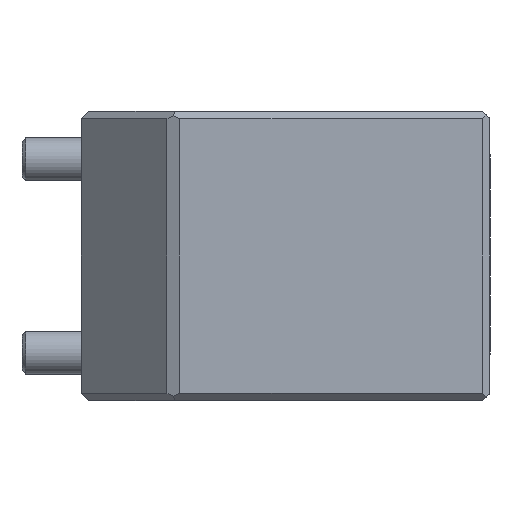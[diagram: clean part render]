
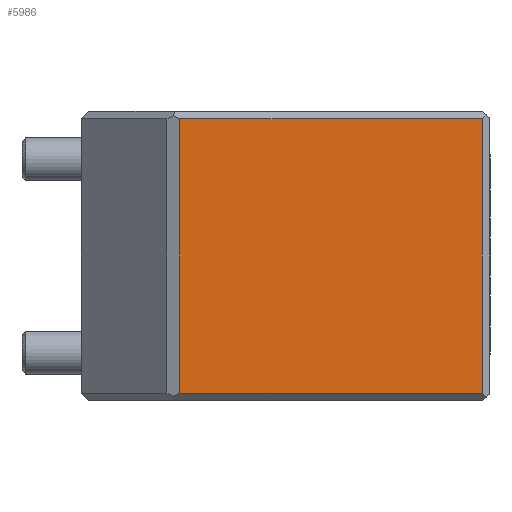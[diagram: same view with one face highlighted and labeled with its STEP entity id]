
A CAD part, left-side view. The second image highlights one B-rep face of the part: STEP entity #5986.
In plain terms, the highlighted planar face has unit normal (-1, 0, 0).
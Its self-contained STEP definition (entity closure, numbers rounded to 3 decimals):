
#169 = CARTESIAN_POINT ( 'NONE',  ( -51.7, 9.85, -26.3 ) ) ;
#584 = LINE ( 'NONE', #8546, #593 ) ;
#593 = VECTOR ( 'NONE', #8485, 1000. ) ;
#1737 = VECTOR ( 'NONE', #7282, 1000. ) ;
#1812 = LINE ( 'NONE', #7308, #1737 ) ;
#2598 = LINE ( 'NONE', #6685, #2606 ) ;
#2606 = VECTOR ( 'NONE', #6669, 1000. ) ;
#3464 = VERTEX_POINT ( 'NONE', #169 ) ;
#4038 = CARTESIAN_POINT ( 'NONE',  ( -51.7, -18.35, -26.3 ) ) ;
#4506 = EDGE_LOOP ( 'NONE', ( #5423, #5587, #5629, #5890 ) ) ;
#4691 = EDGE_CURVE ( 'NONE', #5880, #3464, #7281, .T. ) ;
#5423 = ORIENTED_EDGE ( 'NONE', *, *, #4691, .T. ) ;
#5587 = ORIENTED_EDGE ( 'NONE', *, *, #9952, .T. ) ;
#5629 = ORIENTED_EDGE ( 'NONE', *, *, #9430, .T. ) ;
#5880 = VERTEX_POINT ( 'NONE', #10656 ) ;
#5890 = ORIENTED_EDGE ( 'NONE', *, *, #9773, .T. ) ;
#5986 = ADVANCED_FACE ( 'NONE', ( #7139 ), #8348, .T. ) ;
#6075 = VERTEX_POINT ( 'NONE', #4038 ) ;
#6453 = VECTOR ( 'NONE', #7930, 1000. ) ;
#6669 = DIRECTION ( 'NONE',  ( 0., -1., 0. ) ) ;
#6685 = CARTESIAN_POINT ( 'NONE',  ( -51.7, -19.05, -26.3 ) ) ;
#6847 = AXIS2_PLACEMENT_3D ( 'NONE', #8421, #8314, #8299 ) ;
#7139 = FACE_OUTER_BOUND ( 'NONE', #4506, .T. ) ;
#7281 = LINE ( 'NONE', #8073, #6453 ) ;
#7282 = DIRECTION ( 'NONE',  ( 0., 1., 0. ) ) ;
#7308 = CARTESIAN_POINT ( 'NONE',  ( -51.7, -19.05, -0.7 ) ) ;
#7428 = VERTEX_POINT ( 'NONE', #10393 ) ;
#7930 = DIRECTION ( 'NONE',  ( 0., 0., -1. ) ) ;
#8073 = CARTESIAN_POINT ( 'NONE',  ( -51.7, 9.85, -27. ) ) ;
#8299 = DIRECTION ( 'NONE',  ( 0., 0., 1. ) ) ;
#8314 = DIRECTION ( 'NONE',  ( -1., 0., 0. ) ) ;
#8348 = PLANE ( 'NONE',  #6847 ) ;
#8421 = CARTESIAN_POINT ( 'NONE',  ( -51.7, -19.05, -27. ) ) ;
#8485 = DIRECTION ( 'NONE',  ( 0., 0., 1. ) ) ;
#8546 = CARTESIAN_POINT ( 'NONE',  ( -51.7, -18.35, -27. ) ) ;
#9430 = EDGE_CURVE ( 'NONE', #6075, #7428, #584, .T. ) ;
#9773 = EDGE_CURVE ( 'NONE', #7428, #5880, #1812, .T. ) ;
#9952 = EDGE_CURVE ( 'NONE', #3464, #6075, #2598, .T. ) ;
#10393 = CARTESIAN_POINT ( 'NONE',  ( -51.7, -18.35, -0.7 ) ) ;
#10656 = CARTESIAN_POINT ( 'NONE',  ( -51.7, 9.85, -0.7 ) ) ;
